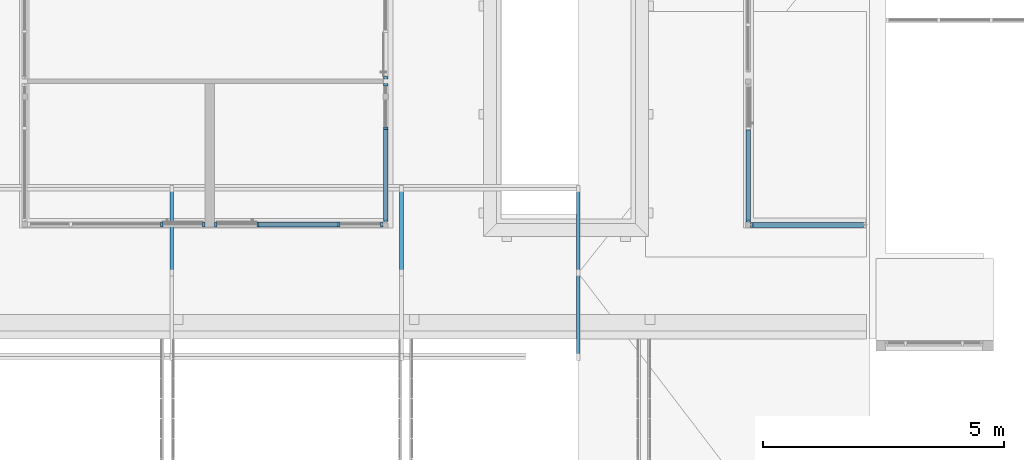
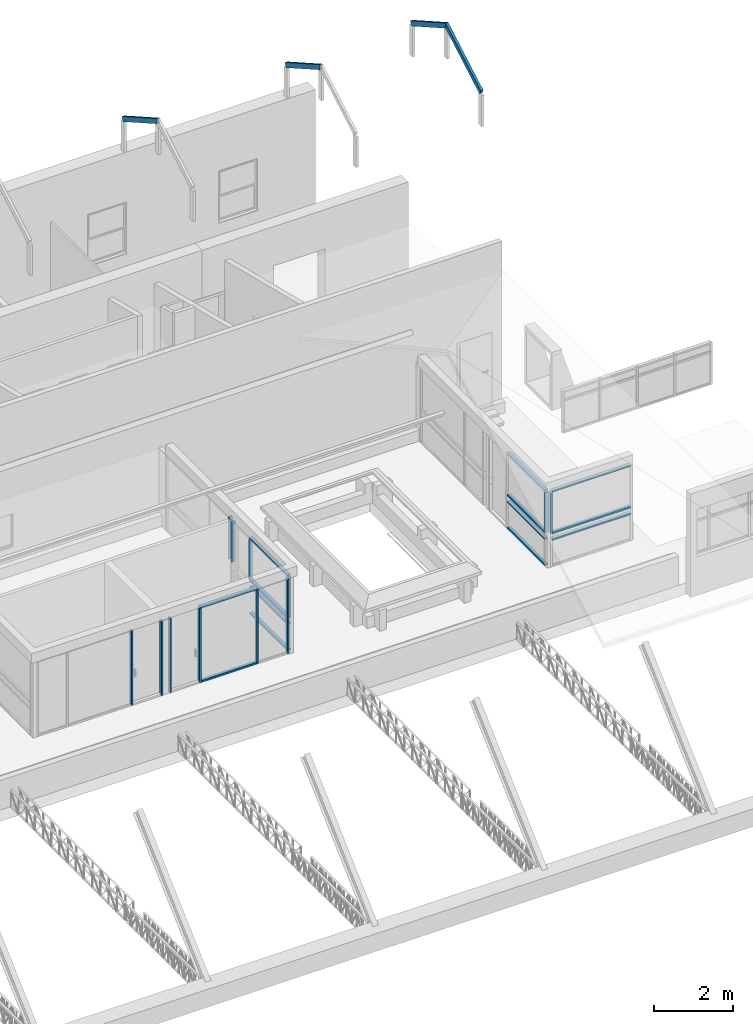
# One storey, part 11 of 153: 25 members, 4 beams, 9 elements without a shape of their own.
"""IFC4 building model written with IfcOpenShell, lengths in metres."""

from ifc_helpers import new_model, entity, si_unit, converted_unit, derived_unit, direction, frame, origin, place, context, subcontext, project, spatial, indexed_curve, outline, extrude, source, transform, mapped, material, type_object, type_shapes, element, aggregate, save


model = new_model("IFC4")

# Units and contexts
model_context = context("Model", 3, precision=1e-05, world=origin(), true_north=direction((6.123031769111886e-17, 1.0)))
body_context = subcontext(model_context, "Body", "Model", "MODEL_VIEW")
ifc_project = project(units=[si_unit("LENGTHUNIT", "METRE"), si_unit("AREAUNIT", "SQUARE_METRE"), si_unit("VOLUMEUNIT", "CUBIC_METRE"), converted_unit("PLANEANGLEUNIT", "DEGREE", entity("IfcRatioMeasure", 0.017453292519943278), si_unit("PLANEANGLEUNIT", "RADIAN"), dimensions=[0, 0, 0, 0, 0, 0, 0]), si_unit("MASSUNIT", "GRAM", prefix="KILO"), derived_unit("MASSDENSITYUNIT", [(si_unit("MASSUNIT", "GRAM", prefix="KILO"), 1), (si_unit("LENGTHUNIT", "METRE"), -3)]), derived_unit("MOMENTOFINERTIAUNIT", [(si_unit("LENGTHUNIT", "METRE"), 4)]), si_unit("TIMEUNIT", "SECOND"), si_unit("FREQUENCYUNIT", "HERTZ"), si_unit("THERMODYNAMICTEMPERATUREUNIT", "DEGREE_CELSIUS"), derived_unit("THERMALTRANSMITTANCEUNIT", [(si_unit("MASSUNIT", "GRAM", prefix="KILO"), 1), (si_unit("THERMODYNAMICTEMPERATUREUNIT", "KELVIN"), -1), (si_unit("TIMEUNIT", "SECOND"), -3)]), derived_unit("VOLUMETRICFLOWRATEUNIT", [(si_unit("LENGTHUNIT", "METRE"), 3), (si_unit("TIMEUNIT", "SECOND"), -1)]), derived_unit("MASSFLOWRATEUNIT", [(si_unit("MASSUNIT", "GRAM", prefix="KILO"), 1), (si_unit("TIMEUNIT", "SECOND"), -1)]), derived_unit("ROTATIONALFREQUENCYUNIT", [(si_unit("TIMEUNIT", "SECOND"), -1)]), si_unit("ELECTRICCURRENTUNIT", "AMPERE"), si_unit("ELECTRICVOLTAGEUNIT", "VOLT"), si_unit("POWERUNIT", "WATT"), si_unit("FORCEUNIT", "NEWTON", prefix="KILO"), si_unit("ILLUMINANCEUNIT", "LUX"), si_unit("LUMINOUSFLUXUNIT", "LUMEN"), si_unit("LUMINOUSINTENSITYUNIT", "CANDELA"), derived_unit("USERDEFINED", [(si_unit("MASSUNIT", "GRAM", prefix="KILO"), -1), (si_unit("LENGTHUNIT", "METRE"), -2), (si_unit("TIMEUNIT", "SECOND"), 3), (si_unit("LUMINOUSFLUXUNIT", "LUMEN"), 1)]), derived_unit("SOUNDPOWERUNIT", [(si_unit("MASSUNIT", "GRAM", prefix="KILO"), 1), (si_unit("LENGTHUNIT", "METRE"), 2), (si_unit("TIMEUNIT", "SECOND"), -3)]), derived_unit("SOUNDPRESSUREUNIT", [(si_unit("MASSUNIT", "GRAM", prefix="KILO"), 1), (si_unit("LENGTHUNIT", "METRE"), -1), (si_unit("TIMEUNIT", "SECOND"), -2)]), derived_unit("LINEARVELOCITYUNIT", [(si_unit("LENGTHUNIT", "METRE"), 1), (si_unit("TIMEUNIT", "SECOND"), -1)]), si_unit("PRESSUREUNIT", "PASCAL"), derived_unit("USERDEFINED", [(si_unit("LENGTHUNIT", "METRE"), -2), (si_unit("MASSUNIT", "GRAM", prefix="KILO"), 1), (si_unit("TIMEUNIT", "SECOND"), -2)]), derived_unit("LINEARFORCEUNIT", [(si_unit("MASSUNIT", "GRAM", prefix="KILO"), 1), (si_unit("LENGTHUNIT", "METRE"), 1), (si_unit("TIMEUNIT", "SECOND"), -2), (si_unit("LENGTHUNIT", "METRE"), -1)]), derived_unit("PLANARFORCEUNIT", [(si_unit("MASSUNIT", "GRAM", prefix="KILO"), 1), (si_unit("LENGTHUNIT", "METRE"), 1), (si_unit("TIMEUNIT", "SECOND"), -2), (si_unit("LENGTHUNIT", "METRE"), -2)])], contexts=[model_context])

# Site, building, storey
site_placement = place(None, origin())
site = spatial("IfcSite", under=ifc_project, at=site_placement, Name="Superficie", CompositionType="ELEMENT")
building_placement = place(site_placement, origin())
building = spatial("IfcBuilding", under=site, at=building_placement, CompositionType="ELEMENT")
storey_placement = place(building_placement, frame((0.0, 0.0, 3.5999999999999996)))
storey = spatial("IfcBuildingStorey", under=building, at=storey_placement, Name="Nivel 1", CompositionType="ELEMENT", Elevation=3.5999999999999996)

# Curtain wall, members
curtain_wall_type = type_object("IfcCurtainWallType", Name="Muro cortina:Muro cortina - simple", PredefinedType="NOTDEFINED")
curtain_wall_1_placement = place(storey_placement, frame((0.0, 0.0, -3.5999999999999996)))
curtain_wall_1 = element("IfcCurtainWall", 1, at=curtain_wall_1_placement, inside=storey, type_object=curtain_wall_type, Name="Muro cortina:Muro cortina - simple", ObjectType="Muro cortina:Muro cortina - simple", PredefinedType="NOTDEFINED")
ifc_material_1 = material(Name="<Unnamed>")
member_type_1 = type_object("IfcMemberType", Name="Montante rectangular:Montante rectangular - 5 x 10 cm", PredefinedType="MULLION", material=ifc_material_1)
shared_shape_1 = source(origin(), body_context, "Body", "SweptSolid", [
    extrude(outline(indexed_curve([(-0.05, -0.025), (0.05, -0.025), (0.05, 0.025), (-0.05, 0.025), (-0.05, -0.025)], self_intersect=False)), frame((-0.025, 0.0, -2.2950000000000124), z_axis=(0.0, 0.0, 1.0), x_axis=(0.0, -1.0, 0.0)), (0.0, 0.0, 1.0), 2.295000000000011),
])
type_shapes(member_type_1, [shared_shape_1])
member_1_placement = place(curtain_wall_1_placement, frame((20.521799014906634, -0.9636067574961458, 5.949999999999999), z_axis=(1.0, 0.0, 0.0), x_axis=(0.0, 0.0, 1.0)))
member_1 = element("IfcMember", 2, at=member_1_placement, type_object=member_type_1, material=ifc_material_1, Name="Montante rectangular:Montante rectangular - 5 x 10 cm", ObjectType="Montante rectangular:Montante rectangular - 5 x 10 cm", PredefinedType="MULLION", context=body_context, shape_type="MappedRepresentation", body=[
    mapped(shared_shape_1, transform((0.0, 0.0, 0.0), scale=1.0)),
])
member_type_2 = type_object("IfcMemberType", Name="Montante rectangular:Montante rectangular - 5 x 10 cm", PredefinedType="MULLION", material=ifc_material_1)
shared_shape_2 = source(origin(), body_context, "Body", "SweptSolid", [
    extrude(outline(indexed_curve([(-0.05, -0.025), (0.05, -0.025), (0.05, 0.025), (-0.05, 0.025), (-0.05, -0.025)], self_intersect=False)), frame((0.0, 0.0, -2.2950000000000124), z_axis=(0.0, 0.0, 1.0), x_axis=(0.0, -1.0, 0.0)), (0.0, 0.0, 1.0), 2.2950000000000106),
])
type_shapes(member_type_2, [shared_shape_2])
member_2_placement = place(curtain_wall_1_placement, frame((20.521799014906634, -0.9636067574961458, 4.63), z_axis=(1.0, 0.0, 0.0), x_axis=(0.0, 0.0, 1.0)))
member_2 = element("IfcMember", 3, at=member_2_placement, type_object=member_type_2, material=ifc_material_1, Name="Montante rectangular:Montante rectangular - 5 x 10 cm", ObjectType="Montante rectangular:Montante rectangular - 5 x 10 cm", PredefinedType="MULLION", context=body_context, shape_type="MappedRepresentation", body=[
    mapped(shared_shape_2, transform((0.0, 0.0, 0.0), scale=1.0)),
])
member_3_placement = place(curtain_wall_1_placement, frame((20.521799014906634, -0.9636067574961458, 4.43), z_axis=(1.0, 0.0, 0.0), x_axis=(0.0, 0.0, 1.0)))
member_3 = element("IfcMember", 4, at=member_3_placement, type_object=member_type_2, material=ifc_material_1, Name="Montante rectangular:Montante rectangular - 5 x 10 cm", ObjectType="Montante rectangular:Montante rectangular - 5 x 10 cm", PredefinedType="MULLION", context=body_context, shape_type="MappedRepresentation", body=[
    mapped(shared_shape_2, transform((0.0, 0.0, 0.0), scale=1.0)),
])
member_type_3 = type_object("IfcMemberType", Name="Montante rectangular:Montante rectangular - 5 x 10 cm", PredefinedType="MULLION", material=ifc_material_1)
shared_shape_3 = source(origin(), body_context, "Body", "SweptSolid", [
    extrude(outline(indexed_curve([(-0.05, -0.025), (0.05, -0.025), (0.05, 0.025), (-0.05, 0.025), (-0.05, -0.025)], self_intersect=False)), frame((0.0, 0.0, -1.2499999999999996), z_axis=(0.0, 0.0, 1.0), x_axis=(0.0, -1.0, 0.0)), (0.0, 0.0, 1.0), 1.2499999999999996),
])
type_shapes(member_type_3, [shared_shape_3])
member_4_placement = place(curtain_wall_1_placement, frame((18.20179901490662, -0.9636067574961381, 4.63), z_axis=(0.0, 0.0, -1.0), x_axis=(1.0, 0.0, 0.0)))
member_4 = element("IfcMember", 5, at=member_4_placement, type_object=member_type_3, material=ifc_material_1, Name="Montante rectangular:Montante rectangular - 5 x 10 cm", ObjectType="Montante rectangular:Montante rectangular - 5 x 10 cm", PredefinedType="MULLION", context=body_context, shape_type="MappedRepresentation", body=[
    mapped(shared_shape_3, transform((0.0, 0.0, 0.0), scale=1.0)),
])
aggregate(curtain_wall_1, [member_1, member_2, member_3, member_4])

curtain_wall_2_placement = place(storey_placement, frame((0.0, 0.0, -3.5999999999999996)))
curtain_wall_2 = element("IfcCurtainWall", 6, at=curtain_wall_2_placement, inside=storey, type_object=curtain_wall_type, Name="Muro cortina:Muro cortina - simple", ObjectType="Muro cortina:Muro cortina - simple", PredefinedType="NOTDEFINED")
member_5_placement = place(curtain_wall_2_placement, frame((10.596799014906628, 1.947083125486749, 4.63), z_axis=(0.0, 0.0, -1.0), x_axis=(0.0, 1.0, 0.0)))
member_5 = element("IfcMember", 7, at=member_5_placement, type_object=member_type_3, material=ifc_material_1, Name="Montante rectangular:Montante rectangular - 5 x 10 cm", ObjectType="Montante rectangular:Montante rectangular - 5 x 10 cm", PredefinedType="MULLION", context=body_context, shape_type="MappedRepresentation", body=[
    mapped(shared_shape_3, transform((0.0, 0.0, 0.0), scale=1.0)),
])
member_type_4 = type_object("IfcMemberType", Name="Montante rectangular:Montante rectangular - 5 x 10 cm", PredefinedType="MULLION", material=ifc_material_1)
shared_shape_4 = source(origin(), body_context, "Body", "SweptSolid", [
    extrude(outline(indexed_curve([(-0.05, -0.025), (0.05, -0.025), (0.05, 0.025), (-0.05, 0.025), (-0.05, -0.025)], self_intersect=False)), frame((0.0, 0.0, -1.2499999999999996), z_axis=(0.0, 0.0, 1.0), x_axis=(0.0, -1.0, 0.0)), (0.0, 0.0, 1.0), 1.2499999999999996),
])
type_shapes(member_type_4, [shared_shape_4])
member_6_placement = place(curtain_wall_2_placement, frame((10.596799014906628, 1.047083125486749, 4.63), z_axis=(0.0, 0.0, -1.0), x_axis=(0.0, 1.0, 0.0)))
member_6 = element("IfcMember", 8, at=member_6_placement, type_object=member_type_4, material=ifc_material_1, Name="Montante rectangular:Montante rectangular - 5 x 10 cm", ObjectType="Montante rectangular:Montante rectangular - 5 x 10 cm", PredefinedType="MULLION", context=body_context, shape_type="MappedRepresentation", body=[
    mapped(shared_shape_4, transform((0.0, 0.0, 0.0), scale=1.0)),
])

curtain_wall_3_placement = place(storey_placement, frame((0.0, 0.0, -3.5999999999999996)))
curtain_wall_3 = element("IfcCurtainWall", 9, at=curtain_wall_3_placement, inside=storey, type_object=curtain_wall_type, Name="Muro cortina:Muro cortina - simple", ObjectType="Muro cortina:Muro cortina - simple", PredefinedType="NOTDEFINED")
member_type_5 = type_object("IfcMemberType", Name="Montante rectangular:Montante rectangular - 5 x 10 cm", PredefinedType="MULLION", material=ifc_material_1)
shared_shape_5 = source(origin(), body_context, "Body", "SweptSolid", [
    extrude(outline(indexed_curve([(-0.05, -0.025), (0.05, -0.025), (0.05, 0.025), (-0.05, 0.025), (-0.05, -0.025)], self_intersect=False)), frame((0.0, 0.0, -1.8950000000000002), z_axis=(0.0, 0.0, 1.0), x_axis=(0.0, -1.0, 0.0)), (0.0, 0.0, 1.0), 1.8950000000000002),
])
type_shapes(member_type_5, [shared_shape_5])
member_7_placement = place(curtain_wall_3_placement, frame((18.12679901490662, 1.0102328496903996, 4.63), z_axis=(0.0, 1.0, 0.0), x_axis=(0.0, 0.0, 1.0)))
member_7 = element("IfcMember", 10, at=member_7_placement, type_object=member_type_5, material=ifc_material_1, Name="Montante rectangular:Montante rectangular - 5 x 10 cm", ObjectType="Montante rectangular:Montante rectangular - 5 x 10 cm", PredefinedType="MULLION", context=body_context, shape_type="MappedRepresentation", body=[
    mapped(shared_shape_5, transform((0.0, 0.0, 0.0), scale=1.0)),
])
member_8_placement = place(curtain_wall_3_placement, frame((18.12679901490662, 1.0102328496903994, 4.43), z_axis=(0.0, 1.0, 0.0), x_axis=(0.0, 0.0, 1.0)))
member_8 = element("IfcMember", 11, at=member_8_placement, type_object=member_type_5, material=ifc_material_1, Name="Montante rectangular:Montante rectangular - 5 x 10 cm", ObjectType="Montante rectangular:Montante rectangular - 5 x 10 cm", PredefinedType="MULLION", context=body_context, shape_type="MappedRepresentation", body=[
    mapped(shared_shape_5, transform((0.0, 0.0, 0.0), scale=1.0)),
])
member_9_placement = place(curtain_wall_3_placement, frame((18.12679901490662, 1.0102328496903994, 3.619999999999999), z_axis=(0.0, 1.0, 0.0), x_axis=(0.0, 0.0, 1.0)))
member_9 = element("IfcMember", 12, at=member_9_placement, type_object=member_type_5, material=ifc_material_1, Name="Montante rectangular:Montante rectangular - 5 x 10 cm", ObjectType="Montante rectangular:Montante rectangular - 5 x 10 cm", PredefinedType="MULLION", context=body_context, shape_type="MappedRepresentation", body=[
    mapped(shared_shape_5, transform((0.0, 0.0, 0.0), scale=1.0)),
])

# Member
member_10_placement = place(curtain_wall_2_placement, frame((10.596799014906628, 1.022083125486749, 4.63), z_axis=(0.0, 1.0, 0.0), x_axis=(0.0, 0.0, 1.0)))
member_10 = element("IfcMember", 13, at=member_10_placement, type_object=member_type_5, material=ifc_material_1, Name="Montante rectangular:Montante rectangular - 5 x 10 cm", ObjectType="Montante rectangular:Montante rectangular - 5 x 10 cm", PredefinedType="MULLION", context=body_context, shape_type="MappedRepresentation", body=[
    mapped(shared_shape_5, transform((0.0, 0.0, 0.0), scale=1.0)),
])

member_11_placement = place(curtain_wall_2_placement, frame((10.596799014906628, 1.0220831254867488, 4.43), z_axis=(0.0, 1.0, 0.0), x_axis=(0.0, 0.0, 1.0)))
member_11 = element("IfcMember", 14, at=member_11_placement, type_object=member_type_5, material=ifc_material_1, Name="Montante rectangular:Montante rectangular - 5 x 10 cm", ObjectType="Montante rectangular:Montante rectangular - 5 x 10 cm", PredefinedType="MULLION", context=body_context, shape_type="MappedRepresentation", body=[
    mapped(shared_shape_5, transform((0.0, 0.0, 0.0), scale=1.0)),
])

member_12_placement = place(curtain_wall_2_placement, frame((10.596799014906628, 1.0220831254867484, 3.619999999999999), z_axis=(0.0, 1.0, 0.0), x_axis=(0.0, 0.0, 1.0)))
member_12 = element("IfcMember", 15, at=member_12_placement, type_object=member_type_5, material=ifc_material_1, Name="Montante rectangular:Montante rectangular - 5 x 10 cm", ObjectType="Montante rectangular:Montante rectangular - 5 x 10 cm", PredefinedType="MULLION", context=body_context, shape_type="MappedRepresentation", body=[
    mapped(shared_shape_5, transform((0.0, 0.0, 0.0), scale=1.0)),
])

member_type_6 = type_object("IfcMemberType", Name="Montante rectangular:Montante rectangular - 5 x 10 cm", PredefinedType="MULLION", material=ifc_material_1)
shared_shape_6 = source(origin(), body_context, "Body", "SweptSolid", [
    extrude(outline(indexed_curve([(-0.05, -0.025), (0.05, -0.025), (0.05, 0.025), (-0.05, 0.025), (-0.05, -0.025)], self_intersect=False)), frame((-0.025, 0.0, -1.2499999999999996), z_axis=(0.0, 0.0, 1.0), x_axis=(0.0, -1.0, 0.0)), (0.0, 0.0, 1.0), 1.2499999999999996),
])
type_shapes(member_type_6, [shared_shape_6])
member_13_placement = place(curtain_wall_3_placement, frame((18.12679901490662, -0.9047671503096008, 5.879999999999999), z_axis=(0.0, 0.0, 1.0), x_axis=(0.0, -1.0, 0.0)))
member_13 = element("IfcMember", 16, at=member_13_placement, type_object=member_type_6, material=ifc_material_1, Name="Montante rectangular:Montante rectangular - 5 x 10 cm", ObjectType="Montante rectangular:Montante rectangular - 5 x 10 cm", PredefinedType="MULLION", context=body_context, shape_type="MappedRepresentation", body=[
    mapped(shared_shape_6, transform((0.0, 0.0, 0.0), scale=1.0)),
])

member_type_7 = type_object("IfcMemberType", Name="Montante rectangular:Montante rectangular - 5 x 10 cm", PredefinedType="MULLION", material=ifc_material_1)
shared_shape_7 = source(origin(), body_context, "Body", "SweptSolid", [
    extrude(outline(indexed_curve([(-0.05, -0.025), (0.05, -0.025), (0.05, 0.025), (-0.05, 0.025), (-0.05, -0.025)], self_intersect=False)), frame((-0.025, 0.0, -1.92), z_axis=(0.0, 0.0, 1.0), x_axis=(0.0, -1.0, 0.0)), (0.0, 0.0, 1.0), 1.92),
])
type_shapes(member_type_7, [shared_shape_7])
member_14_placement = place(curtain_wall_3_placement, frame((18.12679901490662, 1.0352328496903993, 5.949999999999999), z_axis=(0.0, 1.0, 0.0), x_axis=(0.0, 0.0, 1.0)))
member_14 = element("IfcMember", 17, at=member_14_placement, type_object=member_type_7, material=ifc_material_1, Name="Montante rectangular:Montante rectangular - 5 x 10 cm", ObjectType="Montante rectangular:Montante rectangular - 5 x 10 cm", PredefinedType="MULLION", context=body_context, shape_type="MappedRepresentation", body=[
    mapped(shared_shape_7, transform((0.0, 0.0, 0.0), scale=1.0)),
])

aggregate(curtain_wall_3, [member_7, member_8, member_9, member_13, member_14])

member_15_placement = place(curtain_wall_2_placement, frame((10.596799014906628, 1.0470831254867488, 5.949999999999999), z_axis=(0.0, 1.0, 0.0), x_axis=(0.0, 0.0, 1.0)))
member_15 = element("IfcMember", 18, at=member_15_placement, type_object=member_type_7, material=ifc_material_1, Name="Montante rectangular:Montante rectangular - 5 x 10 cm", ObjectType="Montante rectangular:Montante rectangular - 5 x 10 cm", PredefinedType="MULLION", context=body_context, shape_type="MappedRepresentation", body=[
    mapped(shared_shape_7, transform((0.0, 0.0, 0.0), scale=1.0)),
])

member_type_8 = type_object("IfcMemberType", Name="Montante rectangular:Montante rectangular - 5 x 10 cm", PredefinedType="MULLION", material=ifc_material_1)
shared_shape_8 = source(origin(), body_context, "Body", "SweptSolid", [
    extrude(outline(indexed_curve([(-0.05, -0.025), (0.05, -0.025), (0.05, 0.025), (-0.05, 0.025), (-0.05, -0.025)], self_intersect=False)), frame((-0.025, 0.0, -1.2499999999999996), z_axis=(0.0, 0.0, 1.0), x_axis=(0.0, -1.0, 0.0)), (0.0, 0.0, 1.0), 1.2499999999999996),
])
type_shapes(member_type_8, [shared_shape_8])
member_16_placement = place(curtain_wall_2_placement, frame((10.596799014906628, -0.892916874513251, 5.879999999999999), z_axis=(0.0, 0.0, 1.0), x_axis=(0.0, -1.0, 0.0)))
member_16 = element("IfcMember", 19, at=member_16_placement, type_object=member_type_8, material=ifc_material_1, Name="Montante rectangular:Montante rectangular - 5 x 10 cm", ObjectType="Montante rectangular:Montante rectangular - 5 x 10 cm", PredefinedType="MULLION", context=body_context, shape_type="MappedRepresentation", body=[
    mapped(shared_shape_8, transform((0.0, 0.0, 0.0), scale=1.0)),
])

aggregate(curtain_wall_2, [member_5, member_6, member_10, member_11, member_12, member_16, member_15])

# Curtain wall, member
curtain_wall_4_placement = place(storey_placement, frame((0.0, 0.0, -3.5999999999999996)))
curtain_wall_4 = element("IfcCurtainWall", 20, at=curtain_wall_4_placement, inside=storey, type_object=curtain_wall_type, Name="Muro cortina:Muro cortina - simple", ObjectType="Muro cortina:Muro cortina - simple", PredefinedType="NOTDEFINED")
member_type_9 = type_object("IfcMemberType", Name="Montante rectangular:Montante rectangular - 5 x 10 cm", PredefinedType="MULLION", material=ifc_material_1)
shared_shape_9 = source(origin(), body_context, "Body", "SweptSolid", [
    extrude(outline(indexed_curve([(-0.05, -0.025), (0.05, -0.025), (0.05, 0.025), (-0.05, 0.025), (-0.05, -0.025)], self_intersect=False)), frame((0.0, 0.0, -1.3199999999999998), z_axis=(0.0, 0.0, 1.0), x_axis=(0.0, -1.0, 0.0)), (0.0, 0.0, 1.0), 1.3199999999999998),
])
type_shapes(member_type_9, [shared_shape_9])
member_17_placement = place(curtain_wall_4_placement, frame((10.596799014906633, 2.097083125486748, 4.63), z_axis=(0.0, 0.0, -1.0), x_axis=(0.0, 1.0, 0.0)))
member_17 = element("IfcMember", 21, at=member_17_placement, type_object=member_type_9, material=ifc_material_1, Name="Montante rectangular:Montante rectangular - 5 x 10 cm", ObjectType="Montante rectangular:Montante rectangular - 5 x 10 cm", PredefinedType="MULLION", context=body_context, shape_type="MappedRepresentation", body=[
    mapped(shared_shape_9, transform((0.0, 0.0, 0.0), scale=1.0)),
])
aggregate(curtain_wall_4, [member_17])

# Curtain wall, members
curtain_wall_5_placement = place(storey_placement, frame((0.0, 0.0, -3.5999999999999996)))
curtain_wall_5 = element("IfcCurtainWall", 22, at=curtain_wall_5_placement, inside=storey, type_object=curtain_wall_type, Name="Muro cortina:Muro cortina - simple", ObjectType="Muro cortina:Muro cortina - simple", PredefinedType="NOTDEFINED")
member_type_10 = type_object("IfcMemberType", Name="Montante rectangular:Montante rectangular - 5 x 10 cm", PredefinedType="MULLION", material=ifc_material_1)
shared_shape_10 = source(origin(), body_context, "Body", "SweptSolid", [
    extrude(outline(indexed_curve([(-0.05, -0.025), (0.05, -0.025), (0.05, 0.025), (-0.05, 0.025), (-0.05, -0.025)], self_intersect=False)), frame((0.0, 0.0, -2.3000000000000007), z_axis=(0.0, 0.0, 1.0), x_axis=(0.0, -1.0, 0.0)), (0.0, 0.0, 1.0), 2.3000000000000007),
])
type_shapes(member_type_10, [shared_shape_10])
member_18_placement = place(curtain_wall_5_placement, frame((9.616799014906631, -0.9517564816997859, 3.5999999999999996), z_axis=(0.0, 0.0, -1.0), x_axis=(-1.0, 0.0, 0.0)))
member_18 = element("IfcMember", 23, at=member_18_placement, type_object=member_type_10, material=ifc_material_1, Name="Montante rectangular:Montante rectangular - 5 x 10 cm", ObjectType="Montante rectangular:Montante rectangular - 5 x 10 cm", PredefinedType="MULLION", context=body_context, shape_type="MappedRepresentation", body=[
    mapped(shared_shape_10, transform((0.0, 0.0, 0.0), scale=1.0)),
])
member_19_placement = place(curtain_wall_5_placement, frame((7.941799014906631, -0.9517564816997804, 3.5999999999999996), z_axis=(0.0, 0.0, -1.0), x_axis=(-1.0, 0.0, 0.0)))
member_19 = element("IfcMember", 24, at=member_19_placement, type_object=member_type_10, material=ifc_material_1, Name="Montante rectangular:Montante rectangular - 5 x 10 cm", ObjectType="Montante rectangular:Montante rectangular - 5 x 10 cm", PredefinedType="MULLION", context=body_context, shape_type="MappedRepresentation", body=[
    mapped(shared_shape_10, transform((0.0, 0.0, 0.0), scale=1.0)),
])
member_type_11 = type_object("IfcMemberType", Name="Montante rectangular:Montante rectangular - 5 x 10 cm", PredefinedType="MULLION", material=ifc_material_1)
shared_shape_11 = source(origin(), body_context, "Body", "SweptSolid", [
    extrude(outline(indexed_curve([(-0.05, -0.025), (0.05, -0.025), (0.05, 0.025), (-0.05, 0.025), (-0.05, -0.025)], self_intersect=False)), frame((-0.025, 0.0, -1.6750000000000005), z_axis=(0.0, 0.0, 1.0), x_axis=(0.0, -1.0, 0.0)), (0.0, 0.0, 1.0), 1.6750000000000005),
])
type_shapes(member_type_11, [shared_shape_11])
member_20_placement = place(curtain_wall_5_placement, frame((7.941799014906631, -0.9517564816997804, 5.949999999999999), z_axis=(-1.0, 0.0, 0.0), x_axis=(0.0, 0.0, 1.0)))
member_20 = element("IfcMember", 25, at=member_20_placement, type_object=member_type_11, material=ifc_material_1, Name="Montante rectangular:Montante rectangular - 5 x 10 cm", ObjectType="Montante rectangular:Montante rectangular - 5 x 10 cm", PredefinedType="MULLION", context=body_context, shape_type="MappedRepresentation", body=[
    mapped(shared_shape_11, transform((0.0, 0.0, 0.0), scale=1.0)),
])
member_type_12 = type_object("IfcMemberType", Name="Montante rectangular:Montante rectangular - 5 x 10 cm", PredefinedType="MULLION", material=ifc_material_1)
shared_shape_12 = source(origin(), body_context, "Body", "SweptSolid", [
    extrude(outline(indexed_curve([(-0.05, -0.025), (0.05, -0.025), (0.05, 0.025), (-0.05, 0.025), (-0.05, -0.025)], self_intersect=False)), frame((-0.025, 0.0, -1.6249999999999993), z_axis=(0.0, 0.0, 1.0), x_axis=(0.0, -1.0, 0.0)), (0.0, 0.0, 1.0), 1.6249999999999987),
])
type_shapes(member_type_12, [shared_shape_12])
member_21_placement = place(curtain_wall_5_placement, frame((9.59179901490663, -0.9517564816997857, 3.5999999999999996), z_axis=(1.0, 0.0, 0.0), x_axis=(0.0, 0.0, -1.0)))
member_21 = element("IfcMember", 26, at=member_21_placement, type_object=member_type_12, material=ifc_material_1, Name="Montante rectangular:Montante rectangular - 5 x 10 cm", ObjectType="Montante rectangular:Montante rectangular - 5 x 10 cm", PredefinedType="MULLION", context=body_context, shape_type="MappedRepresentation", body=[
    mapped(shared_shape_12, transform((0.0, 0.0, 0.0), scale=1.0)),
])
member_type_13 = type_object("IfcMemberType", Name="Montante rectangular:Montante rectangular - 5 x 10 cm", PredefinedType="MULLION", material=ifc_material_1)
shared_shape_13 = source(origin(), body_context, "Body", "SweptSolid", [
    extrude(outline(indexed_curve([(-0.05, -0.025), (0.05, -0.025), (0.05, 0.025), (-0.05, 0.025), (-0.05, -0.025)], self_intersect=False)), frame((-0.025, 0.0, -2.3000000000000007), z_axis=(0.0, 0.0, 1.0), x_axis=(0.0, -1.0, 0.0)), (0.0, 0.0, 1.0), 2.3000000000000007),
])
type_shapes(member_type_13, [shared_shape_13])
member_22_placement = place(curtain_wall_5_placement, frame((7.041799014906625, -0.9517564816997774, 3.5999999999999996), z_axis=(0.0, 0.0, -1.0), x_axis=(-1.0, 0.0, 0.0)))
member_22 = element("IfcMember", 27, at=member_22_placement, type_object=member_type_13, material=ifc_material_1, Name="Montante rectangular:Montante rectangular - 5 x 10 cm", ObjectType="Montante rectangular:Montante rectangular - 5 x 10 cm", PredefinedType="MULLION", context=body_context, shape_type="MappedRepresentation", body=[
    mapped(shared_shape_13, transform((0.0, 0.0, 0.0), scale=1.0)),
])
member_type_14 = type_object("IfcMemberType", Name="Montante rectangular:Montante rectangular - 5 x 10 cm", PredefinedType="MULLION", material=ifc_material_1)
shared_shape_14 = source(origin(), body_context, "Body", "SweptSolid", [
    extrude(outline(indexed_curve([(-0.05, -0.025), (0.05, -0.025), (0.05, 0.025), (-0.05, 0.025), (-0.05, -0.025)], self_intersect=False)), frame((-0.025, 0.0, -2.3000000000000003), z_axis=(0.0, 0.0, 1.0), x_axis=(0.0, -1.0, 0.0)), (0.0, 0.0, 1.0), 2.3000000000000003),
])
type_shapes(member_type_14, [shared_shape_14])
member_23_placement = place(curtain_wall_5_placement, frame((10.536799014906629, -0.9517564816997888, 5.9)))
member_23 = element("IfcMember", 28, at=member_23_placement, type_object=member_type_14, material=ifc_material_1, Name="Montante rectangular:Montante rectangular - 5 x 10 cm", ObjectType="Montante rectangular:Montante rectangular - 5 x 10 cm", PredefinedType="MULLION", context=body_context, shape_type="MappedRepresentation", body=[
    mapped(shared_shape_14, transform((0.0, 0.0, 0.0), scale=1.0)),
])
aggregate(curtain_wall_5, [member_18, member_20, member_21, member_22, member_23, member_19])

curtain_wall_6_placement = place(storey_placement, frame((0.0, 0.0, -3.5999999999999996)))
curtain_wall_6 = element("IfcCurtainWall", 29, at=curtain_wall_6_placement, inside=storey, type_object=curtain_wall_type, Name="Muro cortina:Muro cortina - simple", ObjectType="Muro cortina:Muro cortina - simple", PredefinedType="NOTDEFINED")
member_type_15 = type_object("IfcMemberType", Name="Montante rectangular:Montante rectangular - 5 x 10 cm", PredefinedType="MULLION", material=ifc_material_1)
shared_shape_15 = source(origin(), body_context, "Body", "SweptSolid", [
    extrude(outline(indexed_curve([(-0.05, -0.025), (0.05, -0.025), (0.05, 0.025), (-0.05, 0.025), (-0.05, -0.025)], self_intersect=False)), frame((-0.025, 0.0, -2.3000000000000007), z_axis=(0.0, 0.0, 1.0), x_axis=(0.0, -1.0, 0.0)), (0.0, 0.0, 1.0), 2.3000000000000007),
])
type_shapes(member_type_15, [shared_shape_15])
member_24_placement = place(curtain_wall_6_placement, frame((6.841799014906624, -0.9517564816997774, 3.5999999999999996), z_axis=(0.0, 0.0, -1.0), x_axis=(1.0, 0.0, 0.0)))
member_24 = element("IfcMember", 30, at=member_24_placement, type_object=member_type_15, material=ifc_material_1, Name="Montante rectangular:Montante rectangular - 5 x 10 cm", ObjectType="Montante rectangular:Montante rectangular - 5 x 10 cm", PredefinedType="MULLION", context=body_context, shape_type="MappedRepresentation", body=[
    mapped(shared_shape_15, transform((0.0, 0.0, 0.0), scale=1.0)),
])
member_type_16 = type_object("IfcMemberType", Name="Montante rectangular:Montante rectangular - 5 x 10 cm", PredefinedType="MULLION", material=ifc_material_1)
shared_shape_16 = source(origin(), body_context, "Body", "SweptSolid", [
    extrude(outline(indexed_curve([(-0.05, -0.025), (0.05, -0.025), (0.05, 0.025), (-0.05, 0.025), (-0.05, -0.025)], self_intersect=False)), frame((0.0, 0.0, -2.3000000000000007), z_axis=(0.0, 0.0, 1.0), x_axis=(0.0, -1.0, 0.0)), (0.0, 0.0, 1.0), 2.3000000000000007),
])
type_shapes(member_type_16, [shared_shape_16])
member_25_placement = place(curtain_wall_6_placement, frame((5.94179901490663, -0.9517564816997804, 3.5999999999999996), z_axis=(0.0, 0.0, -1.0), x_axis=(1.0, 0.0, 0.0)))
member_25 = element("IfcMember", 31, at=member_25_placement, type_object=member_type_16, material=ifc_material_1, Name="Montante rectangular:Montante rectangular - 5 x 10 cm", ObjectType="Montante rectangular:Montante rectangular - 5 x 10 cm", PredefinedType="MULLION", context=body_context, shape_type="MappedRepresentation", body=[
    mapped(shared_shape_16, transform((0.0, 0.0, 0.0), scale=1.0)),
])
aggregate(curtain_wall_6, [member_24, member_25])

# Assembly, beam
assembly_1_placement = place(storey_placement, origin())
assembly_1 = element("IfcElementAssembly", 32, at=assembly_1_placement, inside=storey, Name="Cercha superior:Cercha superior", ObjectType="Cercha superior:Cercha superior", AssemblyPlace="NOTDEFINED", PredefinedType="TRUSS")
ifc_material_2 = material(Name="Madera - Madera de construcción", Category="Madera")
beam_type_1 = type_object("IfcBeamType", Name="Glulam-Pino del sur:76X140", PredefinedType="BEAM", material=ifc_material_2)
shared_shape_17 = source(origin(), body_context, "Body", "SweptSolid", [
    extrude(outline(indexed_curve([(-0.9661116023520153, -0.07000000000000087), (1.006111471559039, -0.06999999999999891), (1.006111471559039, 0.07000000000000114), (-1.0461113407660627, 0.06999999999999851), (-0.9661116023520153, -0.07000000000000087)], self_intersect=False)), frame((6.113926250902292, -1.0837862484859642, 12.134452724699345), z_axis=(1.0, 0.0, 0.0), x_axis=(0.0, 0.8695829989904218, -0.49378680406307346)), (0.0, 0.0, 1.0), 0.0760000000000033),
])
type_shapes(beam_type_1, [shared_shape_17])
beam_1_placement = place(building_placement, frame((0.0, 0.0, 9.562421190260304)))
beam_1 = element("IfcBeam", 33, at=beam_1_placement, type_object=beam_type_1, material=ifc_material_2, Name="Glulam-Pino del sur:76X140", ObjectType="Glulam-Pino del sur:76X140", PredefinedType="BEAM", context=body_context, shape_type="MappedRepresentation", body=[
    mapped(shared_shape_17, transform((0.0, 0.0, 0.0), scale=1.0)),
])
aggregate(assembly_1, [beam_1])

assembly_2_placement = place(storey_placement, origin())
assembly_2 = element("IfcElementAssembly", 34, at=assembly_2_placement, inside=storey, Name="Cercha superior:Cercha superior", ObjectType="Cercha superior:Cercha superior", AssemblyPlace="NOTDEFINED", PredefinedType="TRUSS")
beam_type_2 = type_object("IfcBeamType", Name="Glulam-Pino del sur:76X140", PredefinedType="BEAM", material=ifc_material_2)
shared_shape_18 = source(origin(), body_context, "Body", "SweptSolid", [
    extrude(outline(indexed_curve([(-0.9661116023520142, -0.07000000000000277), (1.0061114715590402, -0.07000000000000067), (1.0061114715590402, 0.06999999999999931), (-1.046111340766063, 0.06999999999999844), (-0.9661116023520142, -0.07000000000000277)], self_intersect=False)), frame((10.88392625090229, -1.0837862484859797, 12.134452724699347), z_axis=(1.0, 0.0, 0.0), x_axis=(0.0, 0.8695829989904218, -0.4937868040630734)), (0.0, 0.0, 1.0), 0.07600000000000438),
])
type_shapes(beam_type_2, [shared_shape_18])
beam_2_placement = place(building_placement, frame((0.0, 0.0, 9.562421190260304)))
beam_2 = element("IfcBeam", 35, at=beam_2_placement, type_object=beam_type_2, material=ifc_material_2, Name="Glulam-Pino del sur:76X140", ObjectType="Glulam-Pino del sur:76X140", PredefinedType="BEAM", context=body_context, shape_type="MappedRepresentation", body=[
    mapped(shared_shape_18, transform((0.0, 0.0, 0.0), scale=1.0)),
])
aggregate(assembly_2, [beam_2])

# Assembly, beams
assembly_3_placement = place(storey_placement, origin())
assembly_3 = element("IfcElementAssembly", 36, at=assembly_3_placement, inside=storey, Name="Cercha superior:Cercha superior", ObjectType="Cercha superior:Cercha superior", AssemblyPlace="NOTDEFINED", PredefinedType="TRUSS")
beam_type_3 = type_object("IfcBeamType", Name="Glulam-Pino del sur:76X140", PredefinedType="BEAM", material=ifc_material_2)
shared_shape_19 = source(origin(), body_context, "Body", "SweptSolid", [
    extrude(outline(indexed_curve([(-0.9661116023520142, -0.07000000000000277), (1.0061114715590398, -0.0700000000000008), (1.0061114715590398, 0.06999999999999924), (-1.046111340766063, 0.06999999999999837), (-0.9661116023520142, -0.07000000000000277)], self_intersect=False)), frame((14.559348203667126, -1.0837862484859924, 12.134452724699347), z_axis=(1.0, 0.0, 0.0), x_axis=(0.0, 0.8695829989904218, -0.49378680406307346)), (0.0, 0.0, 1.0), 0.07600000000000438),
])
type_shapes(beam_type_3, [shared_shape_19])
beam_3_placement = place(building_placement, frame((0.0, 0.0, 9.562421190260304)))
beam_3 = element("IfcBeam", 37, at=beam_3_placement, type_object=beam_type_3, material=ifc_material_2, Name="Glulam-Pino del sur:76X140", ObjectType="Glulam-Pino del sur:76X140", PredefinedType="BEAM", context=body_context, shape_type="MappedRepresentation", body=[
    mapped(shared_shape_19, transform((0.0, 0.0, 0.0), scale=1.0)),
])
beam_type_4 = type_object("IfcBeamType", Name="Glulam-Pino del sur:76X140", PredefinedType="BEAM", material=ifc_material_2)
shared_shape_20 = source(origin(), body_context, "Body", "SweptSolid", [
    extrude(outline(indexed_curve([(-1.009169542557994, -0.07000000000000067), (0.96916967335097, -0.06999999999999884), (1.0491694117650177, 0.0700000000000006), (-1.009169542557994, 0.06999999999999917), (-1.009169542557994, -0.07000000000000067)], self_intersect=False)), frame((14.559348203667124, -2.833531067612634, 12.128201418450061), z_axis=(1.0, 0.0, 0.0), x_axis=(0.0, 0.866898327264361, 0.4984849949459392)), (0.0, 0.0, 1.0), 0.07600000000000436),
])
type_shapes(beam_type_4, [shared_shape_20])
beam_4_placement = place(building_placement, frame((0.0, 0.0, 9.562421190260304)))
beam_4 = element("IfcBeam", 38, at=beam_4_placement, type_object=beam_type_4, material=ifc_material_2, Name="Glulam-Pino del sur:76X140", ObjectType="Glulam-Pino del sur:76X140", PredefinedType="BEAM", context=body_context, shape_type="MappedRepresentation", body=[
    mapped(shared_shape_20, transform((0.0, 0.0, 0.0), scale=1.0)),
])
aggregate(assembly_3, [beam_3, beam_4])

save(model, "model.ifc")
